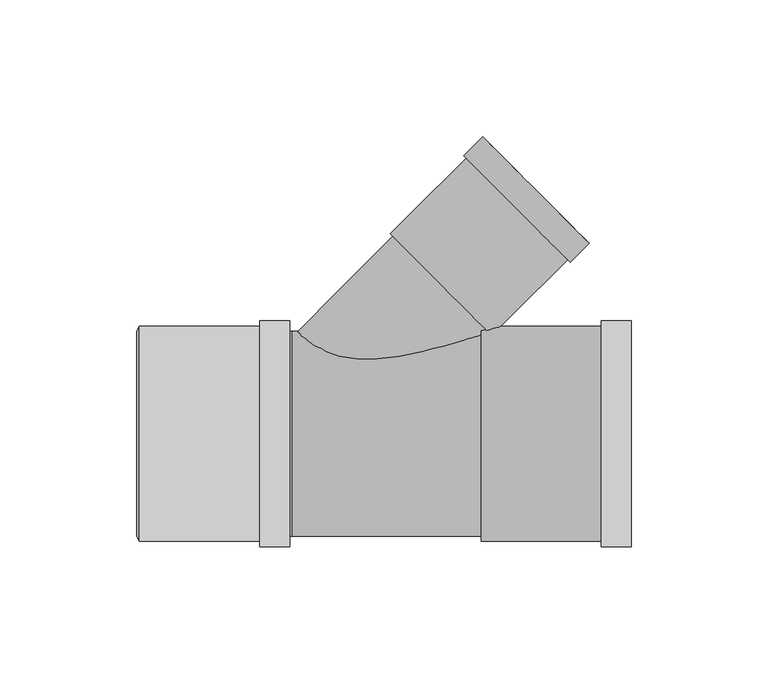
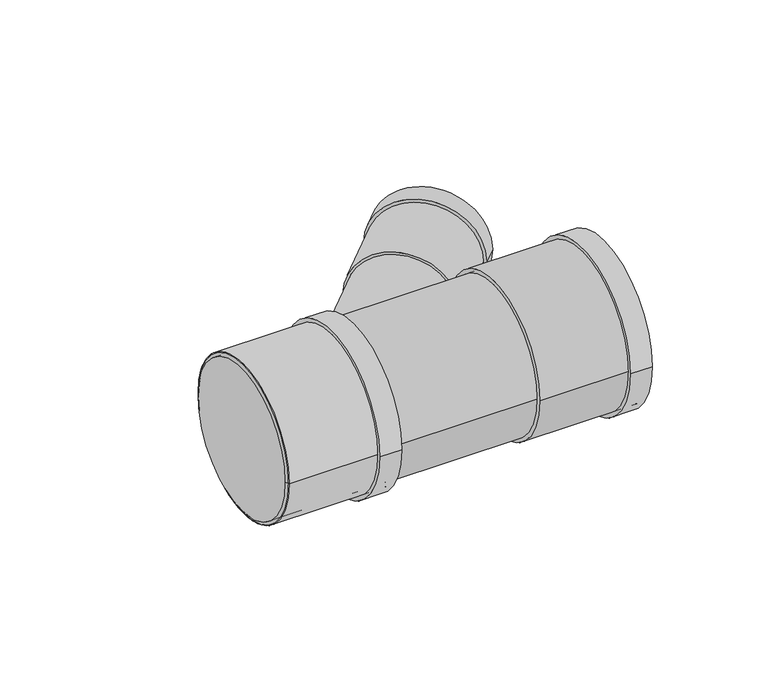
"""IFC4 building model written with IfcOpenShell, lengths in millimetres: pipe fitting geometry, Superdrain HTEA Branch : Superdrain HTEA Branch."""

from ifc_helpers import new_model, si_unit, point, frame, origin, origin_2d, place, context, project, spatial, polyline, circle_curve, trimmed, segment, composite_curve, outline, extrude, source, transform, mapped, element, save
from ifc_brep_helpers import plane_surface, cylinder_surface, revolved_surface, advanced_brep


def pipe_fitting_d2e39f70(model_context):
    return source(origin(), model_context, "Body", "SolidModel", [
        extrude(outline(composite_curve([segment(trimmed(circle_curve(origin_2d(), 39.375), [point((39.375, 0.0))], [point((-39.375, 0.0))], False, "CARTESIAN"), True, "CONTINUOUS"), segment(trimmed(circle_curve(origin_2d(), 39.375), [point((-39.375, 0.0))], [point((39.375, 0.0))], False, "CARTESIAN"), True, "CONTINUOUS")], self_intersect=False), holes=[composite_curve([segment(trimmed(circle_curve(origin_2d(), 37.5), [point((37.5, 0.0))], [point((-37.5, 0.0))], True, "CARTESIAN"), True, "CONTINUOUS"), segment(trimmed(circle_curve(origin_2d(), 37.5), [point((-37.5, 0.0))], [point((37.5, 0.0))], True, "CARTESIAN"), True, "CONTINUOUS")], self_intersect=False)]), frame((-55.8, 0.0, 0.0), z_axis=(1.0, 0.0, 0.0), x_axis=(0.0, 1.0, 0.0)), (0.0, 0.0, 1.0), 55.0),
        extrude(outline(composite_curve([segment(trimmed(circle_curve(origin_2d(), 41.34375), [point((41.34375, 0.0))], [point((-41.34375, 0.0))], False, "CARTESIAN"), True, "CONTINUOUS"), segment(trimmed(circle_curve(origin_2d(), 41.34375), [point((-41.34375, 0.0))], [point((41.34375, 0.0))], False, "CARTESIAN"), True, "CONTINUOUS")], self_intersect=False), holes=[composite_curve([segment(trimmed(circle_curve(origin_2d(), 37.5), [point((37.5, 0.0))], [point((-37.5, 0.0))], True, "CARTESIAN"), True, "CONTINUOUS"), segment(trimmed(circle_curve(origin_2d(), 37.5), [point((-37.5, 0.0))], [point((37.5, 0.0))], True, "CARTESIAN"), True, "CONTINUOUS")], self_intersect=False)]), frame((-11.8, 0.0, 0.0), z_axis=(1.0, 0.0, 0.0), x_axis=(0.0, 1.0, 0.0)), (0.0, 0.0, 1.0), 11.0),
        advanced_brep(
        [(-56.8, 37.5, 0.0), (-56.8, -37.5, 0.0), (-55.8, 39.375, 0.0), (-55.8, -39.375, 0.0)],
        [
            (0, 1, circle_curve(frame((-56.8, 0.0, 0.0), z_axis=(-1.0, 0.0, 0.0), x_axis=(0.0, 1.0, 0.0)), 37.5)),
            (1, 0, circle_curve(frame((-56.8, 0.0, 0.0), z_axis=(-1.0, 0.0, 0.0), x_axis=(0.0, -1.0, 0.0)), 37.5)),
            (2, 3, circle_curve(frame((-55.8, 0.0, 0.0), z_axis=(1.0, 0.0, 0.0), x_axis=(0.0, -1.0, 0.0)), 39.375)),
            (3, 2, circle_curve(frame((-55.8, 0.0, 0.0), z_axis=(1.0, 0.0, 0.0), x_axis=(0.0, 1.0, 0.0)), 39.375)),
            (3, 1),
            (0, 2),
        ],
        [
            plane_surface(frame((-56.8, 0.0, 0.0), z_axis=(-1.0, 0.0, 0.0), x_axis=(0.0, 0.0, -1.0))),
            plane_surface(frame((-55.8, 0.0, 0.0), z_axis=(1.0, 0.0, 0.0), x_axis=(0.0, 0.0, -1.0))),
            revolved_surface(polyline([(-56.8, 37.5, 0.0), (-55.8, 39.375, 0.0)]), (-76.8, 0.0, 0.0), (1.0, 0.0, 0.0)),
            revolved_surface(polyline([(-56.8, -37.5, 0.0), (-55.8, -39.375, 0.0)]), (-76.8, 0.0, 0.0), (1.0, 0.0, 0.0)),
        ],
        [
            (0, [[1, 2]]),
            (1, [[3, 4]]),
            (2, [[-4, 5, -1, 6]]),
            (3, [[-3, -6, -2, -5]]),
        ],
    ),
        advanced_brep(
        [(69.2, -39.375, 0.0), (69.2, 39.375, 0.0), (124.2, -39.375, 0.0), (124.2, 39.375, 0.0), (124.2, -37.5, 0.0), (124.2, 37.5, 0.0), (70.2, -37.5, 0.0), (70.2, 37.5, 0.0)],
        [
            (0, 1, circle_curve(frame((69.2, 0.0, 0.0), z_axis=(-1.0, 0.0, 0.0), x_axis=(0.0, 1.0, 0.0)), 39.375)),
            (1, 0, circle_curve(frame((69.2, 0.0, 0.0), z_axis=(-1.0, 0.0, 0.0), x_axis=(0.0, 1.0, 0.0)), 39.375)),
            (2, 3, circle_curve(frame((124.2, 0.0, 0.0), z_axis=(1.0, 0.0, 0.0), x_axis=(0.0, 1.0, 0.0)), 39.375)),
            (3, 2, circle_curve(frame((124.2, 0.0, 0.0), z_axis=(1.0, 0.0, 0.0), x_axis=(0.0, 1.0, 0.0)), 39.375)),
            (4, 5, circle_curve(frame((124.2, 0.0, 0.0), z_axis=(-1.0, 0.0, 0.0), x_axis=(0.0, 1.0, 0.0)), 37.5)),
            (5, 4, circle_curve(frame((124.2, 0.0, 0.0), z_axis=(-1.0, 0.0, 0.0), x_axis=(0.0, 1.0, 0.0)), 37.5)),
            (0, 2),
            (3, 1),
            (6, 7, circle_curve(frame((70.2, 0.0, 0.0), z_axis=(-1.0, 0.0, 0.0), x_axis=(0.0, 1.0, 0.0)), 37.5)),
            (7, 5),
            (4, 6),
            (7, 6, circle_curve(frame((70.2, 0.0, 0.0), z_axis=(-1.0, 0.0, 0.0), x_axis=(0.0, 1.0, 0.0)), 37.5)),
        ],
        [
            plane_surface(frame((69.2, 0.0, 0.0), z_axis=(-1.0, 0.0, 0.0), x_axis=(0.0, 0.0, 1.0))),
            plane_surface(frame((124.2, 0.0, 0.0), z_axis=(1.0, 0.0, 0.0), x_axis=(0.0, 0.0, 1.0))),
            cylinder_surface(frame((69.2, 0.0, 0.0), z_axis=(-1.0, 0.0, 0.0), x_axis=(0.0, 1.0, 0.0)), 39.375),
            revolved_surface(polyline([(70.2, 37.5, 0.0), (124.2, 37.5, 0.0)]), (70.2, 0.0, 0.0), (-1.0, 0.0, 0.0)),
            plane_surface(frame((70.2, 0.0, 0.0), z_axis=(1.0, 0.0, 0.0), x_axis=(0.0, 0.0, 1.0))),
        ],
        [
            (0, [[1, 2]]),
            (1, [[3, 4], [5, 6]]),
            (2, [[-1, 7, -4, 8]]),
            (2, [[-2, -8, -3, -7]]),
            (3, [[9, 10, -5, 11]]),
            (3, [[12, -11, -6, -10]]),
            (4, [[-12, -9]]),
        ],
    ),
        extrude(outline(composite_curve([segment(trimmed(circle_curve(origin_2d(), 41.34375), [point((41.34375, 0.0))], [point((-41.34375, 0.0))], False, "CARTESIAN"), True, "CONTINUOUS"), segment(trimmed(circle_curve(origin_2d(), 41.34375), [point((-41.34375, 0.0))], [point((41.34375, 0.0))], False, "CARTESIAN"), True, "CONTINUOUS")], self_intersect=False), holes=[composite_curve([segment(trimmed(circle_curve(origin_2d(), 37.5), [point((37.5, 0.0))], [point((-37.5, 0.0))], True, "CARTESIAN"), True, "CONTINUOUS"), segment(trimmed(circle_curve(origin_2d(), 37.5), [point((-37.5, 0.0))], [point((37.5, 0.0))], True, "CARTESIAN"), True, "CONTINUOUS")], self_intersect=False)]), frame((113.2, 0.0, 0.0), z_axis=(1.0, 0.0, 0.0), x_axis=(0.0, 1.0, 0.0)), (0.0, 0.0, 1.0), 11.0),
        extrude(outline(composite_curve([segment(trimmed(circle_curve(origin_2d(), 25.0), [point((0.0, 25.0))], [point((0.0, -25.0))], False, "CARTESIAN"), True, "CONTINUOUS"), segment(trimmed(circle_curve(origin_2d(), 25.0), [point((0.0, -25.0))], [point((0.0, 25.0))], False, "CARTESIAN"), True, "CONTINUOUS")], self_intersect=False)), frame((0.0, 0.0, 0.0), z_axis=(0.7071067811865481, 0.707106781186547, 0.0), x_axis=(0.0, 0.0, 1.0)), (0.0, 0.0, 1.0), 77.2),
        extrude(outline(composite_curve([segment(trimmed(circle_curve(origin_2d(), 37.5), [point((37.5, 0.0))], [point((-37.5, 0.0))], False, "CARTESIAN"), True, "CONTINUOUS"), segment(trimmed(circle_curve(origin_2d(), 37.5), [point((-37.5, 0.0))], [point((37.5, 0.0))], False, "CARTESIAN"), True, "CONTINUOUS")], self_intersect=False)), frame((-55.8, 0.0, 0.0), z_axis=(1.0, 0.0, 0.0), x_axis=(0.0, 1.0, 0.0)), (0.0, 0.0, 1.0), 55.8),
        extrude(outline(composite_curve([segment(trimmed(circle_curve(origin_2d(), 37.5), [point((-37.5, 0.0))], [point((37.5, 0.0))], False, "CARTESIAN"), True, "CONTINUOUS"), segment(trimmed(circle_curve(origin_2d(), 37.5), [point((37.5, 0.0))], [point((-37.5, 0.0))], False, "CARTESIAN"), True, "CONTINUOUS")], self_intersect=False)), frame((0.0, 0.0, 0.0), z_axis=(1.0, 0.0, 0.0), x_axis=(0.0, 1.0, 0.0)), (0.0, 0.0, 1.0), 69.2),
        extrude(outline(composite_curve([segment(trimmed(circle_curve(origin_2d(), 27.5625), [point((0.0, 27.5625))], [point((0.0, -27.5625))], False, "CARTESIAN"), True, "CONTINUOUS"), segment(trimmed(circle_curve(origin_2d(), 27.5625), [point((0.0, -27.5625))], [point((0.0, 27.5625))], False, "CARTESIAN"), True, "CONTINUOUS")], self_intersect=False), holes=[composite_curve([segment(trimmed(circle_curve(origin_2d(), 25.0), [point((0.0, 25.0))], [point((0.0, -25.0))], True, "CARTESIAN"), True, "CONTINUOUS"), segment(trimmed(circle_curve(origin_2d(), 25.0), [point((0.0, -25.0))], [point((0.0, 25.0))], True, "CARTESIAN"), True, "CONTINUOUS")], self_intersect=False)]), frame((82.3072293, 82.3072293, 0.0), z_axis=(0.7071067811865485, 0.7071067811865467, 0.0), x_axis=(0.0, 0.0, 1.0)), (0.0, 0.0, 1.0), 9.8),
        extrude(outline(composite_curve([segment(trimmed(circle_curve(origin_2d(), 26.25), [point((0.0, 26.25))], [point((0.0, -26.25))], False, "CARTESIAN"), True, "CONTINUOUS"), segment(trimmed(circle_curve(origin_2d(), 26.25), [point((0.0, -26.25))], [point((0.0, 26.25))], False, "CARTESIAN"), True, "CONTINUOUS")], self_intersect=False), holes=[composite_curve([segment(trimmed(circle_curve(origin_2d(), 25.0), [point((0.0, 25.0))], [point((0.0, -25.0))], True, "CARTESIAN"), True, "CONTINUOUS"), segment(trimmed(circle_curve(origin_2d(), 25.0), [point((0.0, -25.0))], [point((0.0, 25.0))], True, "CARTESIAN"), True, "CONTINUOUS")], self_intersect=False)]), frame((54.5886435, 54.5886435, 0.0), z_axis=(0.707106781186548, 0.707106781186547, 0.0), x_axis=(0.0, 0.0, 1.0)), (0.0, 0.0, 1.0), 49.0),
    ])


if __name__ == "__main__":
    model = new_model("IFC4")
    model_context = context("Model", 3, world=origin())
    ifc_project = project(units=[si_unit("LENGTHUNIT", "METRE", prefix="MILLI")], contexts=[model_context])
    site = spatial("IfcSite", under=ifc_project)
    building = spatial("IfcBuilding", under=site)
    placement = place(None, origin())
    pipe_fitting_shape = pipe_fitting_d2e39f70(model_context)
    element("IfcPipeFitting", 1, ObjectType="Superdrain HTEA Branch : Superdrain HTEA Branch", at=placement, inside=building, context=model_context, shape_type="MappedRepresentation", body=[
        mapped(pipe_fitting_shape, transform((0.0, 0.0, 0.0), x_axis=(1.0, 0.0, 0.0), y_axis=(0.0, 1.0, 0.0), z_axis=(0.0, 0.0, 1.0))),
    ])
    save(model, "model.ifc")
